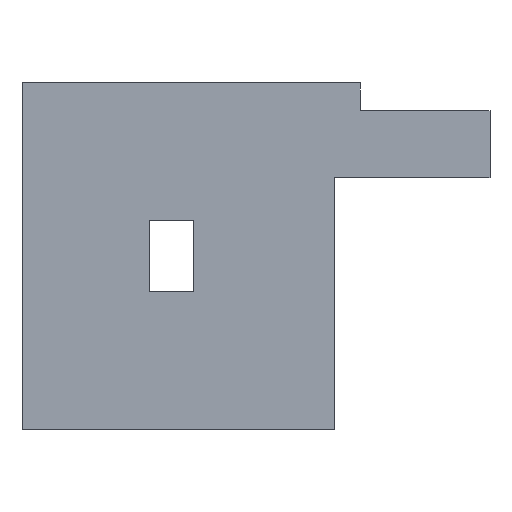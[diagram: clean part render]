
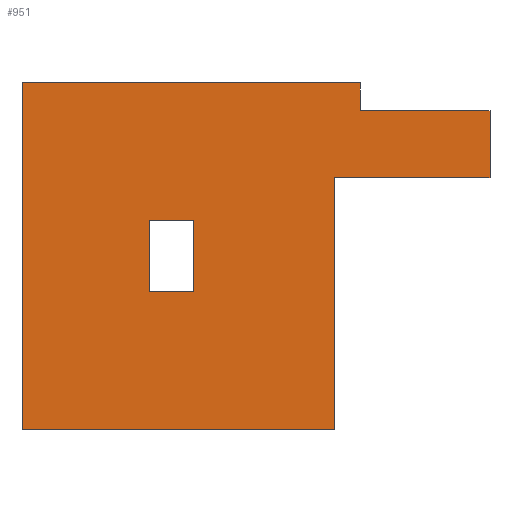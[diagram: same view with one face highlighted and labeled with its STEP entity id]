
A CAD part, front view. The second image highlights one B-rep face of the part: STEP entity #951.
In plain terms, the highlighted planar face has unit normal (0, -1, 0).
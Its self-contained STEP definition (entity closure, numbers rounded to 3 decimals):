
#34 = CARTESIAN_POINT ( 'NONE',  ( 11.5, 0., -13.325 ) ) ;
#42 = DIRECTION ( 'NONE',  ( 0., 0., 1. ) ) ;
#51 = LINE ( 'NONE', #1477, #384 ) ;
#140 = CARTESIAN_POINT ( 'NONE',  ( 37.5, 0., 13.325 ) ) ;
#145 = CARTESIAN_POINT ( 'NONE',  ( 37.5, 0., 13.325 ) ) ;
#172 = LINE ( 'NONE', #845, #909 ) ;
#174 = VECTOR ( 'NONE', #375, 1000. ) ;
#177 = VECTOR ( 'NONE', #1216, 1000. ) ;
#227 = CARTESIAN_POINT ( 'NONE',  ( 21.27, 0., -2.75 ) ) ;
#231 = EDGE_CURVE ( 'NONE', #1707, #508, #1254, .T. ) ;
#238 = CARTESIAN_POINT ( 'NONE',  ( 11.5, 0., 13.325 ) ) ;
#248 = DIRECTION ( 'NONE',  ( 1., 0., 0. ) ) ;
#259 = CARTESIAN_POINT ( 'NONE',  ( 37.5, 0., 11.175 ) ) ;
#269 = CARTESIAN_POINT ( 'NONE',  ( 11.5, 0., 13.325 ) ) ;
#307 = VECTOR ( 'NONE', #1536, 1000. ) ;
#314 = FACE_OUTER_BOUND ( 'NONE', #544, .T. ) ;
#329 = DIRECTION ( 'NONE',  ( 0., 1., 0. ) ) ;
#332 = VECTOR ( 'NONE', #248, 1000. ) ;
#338 = VERTEX_POINT ( 'NONE', #1302 ) ;
#348 = VECTOR ( 'NONE', #862, 1000. ) ;
#359 = CARTESIAN_POINT ( 'NONE',  ( 21.27, 0., 2.75 ) ) ;
#367 = EDGE_CURVE ( 'NONE', #556, #1011, #931, .T. ) ;
#369 = LINE ( 'NONE', #359, #307 ) ;
#375 = DIRECTION ( 'NONE',  ( -1., 0., 0. ) ) ;
#384 = VECTOR ( 'NONE', #689, 1000. ) ;
#402 = ORIENTED_EDGE ( 'NONE', *, *, #1494, .T. ) ;
#411 = CARTESIAN_POINT ( 'NONE',  ( 24.73, 0., 2.75 ) ) ;
#424 = CARTESIAN_POINT ( 'NONE',  ( 35.5, 0., 6.025 ) ) ;
#442 = EDGE_CURVE ( 'NONE', #508, #791, #51, .T. ) ;
#459 = CARTESIAN_POINT ( 'NONE',  ( 47.5, 0., 6.025 ) ) ;
#474 = EDGE_CURVE ( 'NONE', #1011, #1707, #172, .T. ) ;
#476 = LINE ( 'NONE', #1046, #174 ) ;
#477 = VECTOR ( 'NONE', #672, 1000. ) ;
#504 = CARTESIAN_POINT ( 'NONE',  ( 11.5, 0., -13.325 ) ) ;
#508 = VERTEX_POINT ( 'NONE', #459 ) ;
#509 = CARTESIAN_POINT ( 'NONE',  ( 24.73, 0., 2.75 ) ) ;
#526 = DIRECTION ( 'NONE',  ( 0., 0., -1. ) ) ;
#536 = VERTEX_POINT ( 'NONE', #968 ) ;
#544 = EDGE_LOOP ( 'NONE', ( #1582, #602, #1153, #1002, #1296, #1466, #1228, #1148 ) ) ;
#556 = VERTEX_POINT ( 'NONE', #34 ) ;
#602 = ORIENTED_EDGE ( 'NONE', *, *, #1692, .T. ) ;
#604 = ORIENTED_EDGE ( 'NONE', *, *, #1525, .T. ) ;
#672 = DIRECTION ( 'NONE',  ( -1., 0., 0. ) ) ;
#684 = EDGE_LOOP ( 'NONE', ( #402, #759, #604, #820 ) ) ;
#689 = DIRECTION ( 'NONE',  ( 0., 0., 1. ) ) ;
#706 = VERTEX_POINT ( 'NONE', #238 ) ;
#712 = VERTEX_POINT ( 'NONE', #509 ) ;
#716 = EDGE_CURVE ( 'NONE', #712, #536, #1080, .T. ) ;
#759 = ORIENTED_EDGE ( 'NONE', *, *, #716, .T. ) ;
#768 = LINE ( 'NONE', #227, #1415 ) ;
#791 = VERTEX_POINT ( 'NONE', #1070 ) ;
#798 = EDGE_CURVE ( 'NONE', #791, #338, #955, .T. ) ;
#801 = LINE ( 'NONE', #269, #177 ) ;
#820 = ORIENTED_EDGE ( 'NONE', *, *, #1057, .T. ) ;
#845 = CARTESIAN_POINT ( 'NONE',  ( 35.5, 0., -13.325 ) ) ;
#862 = DIRECTION ( 'NONE',  ( 1., 0., 0. ) ) ;
#867 = VERTEX_POINT ( 'NONE', #1658 ) ;
#909 = VECTOR ( 'NONE', #42, 1000. ) ;
#931 = LINE ( 'NONE', #504, #332 ) ;
#951 = ADVANCED_FACE ( 'NONE', ( #314, #1113 ), #1121, .F. ) ;
#955 = LINE ( 'NONE', #1609, #1660 ) ;
#968 = CARTESIAN_POINT ( 'NONE',  ( 24.73, 0., -2.75 ) ) ;
#996 = VECTOR ( 'NONE', #526, 1000. ) ;
#1002 = ORIENTED_EDGE ( 'NONE', *, *, #367, .T. ) ;
#1008 = VECTOR ( 'NONE', #1336, 1000. ) ;
#1011 = VERTEX_POINT ( 'NONE', #1403 ) ;
#1046 = CARTESIAN_POINT ( 'NONE',  ( 24.73, 0., -2.75 ) ) ;
#1057 = EDGE_CURVE ( 'NONE', #867, #1221, #768, .T. ) ;
#1061 = DIRECTION ( 'NONE',  ( -1., 0., 0. ) ) ;
#1070 = CARTESIAN_POINT ( 'NONE',  ( 47.5, 0., 11.175 ) ) ;
#1080 = LINE ( 'NONE', #411, #996 ) ;
#1113 = FACE_BOUND ( 'NONE', #684, .T. ) ;
#1121 = PLANE ( 'NONE',  #1709 ) ;
#1134 = VERTEX_POINT ( 'NONE', #140 ) ;
#1148 = ORIENTED_EDGE ( 'NONE', *, *, #798, .T. ) ;
#1151 = CARTESIAN_POINT ( 'NONE',  ( 35.5, 0., 6.025 ) ) ;
#1153 = ORIENTED_EDGE ( 'NONE', *, *, #1183, .T. ) ;
#1183 = EDGE_CURVE ( 'NONE', #706, #556, #801, .T. ) ;
#1216 = DIRECTION ( 'NONE',  ( 0., 0., -1. ) ) ;
#1221 = VERTEX_POINT ( 'NONE', #1452 ) ;
#1228 = ORIENTED_EDGE ( 'NONE', *, *, #442, .T. ) ;
#1251 = DIRECTION ( 'NONE',  ( 0., 0., 1. ) ) ;
#1254 = LINE ( 'NONE', #1151, #348 ) ;
#1296 = ORIENTED_EDGE ( 'NONE', *, *, #474, .T. ) ;
#1302 = CARTESIAN_POINT ( 'NONE',  ( 37.5, 0., 11.175 ) ) ;
#1329 = LINE ( 'NONE', #145, #477 ) ;
#1336 = DIRECTION ( 'NONE',  ( 0., 0., 1. ) ) ;
#1403 = CARTESIAN_POINT ( 'NONE',  ( 35.5, 0., -13.325 ) ) ;
#1415 = VECTOR ( 'NONE', #1694, 1000. ) ;
#1452 = CARTESIAN_POINT ( 'NONE',  ( 21.27, 0., 2.75 ) ) ;
#1466 = ORIENTED_EDGE ( 'NONE', *, *, #231, .T. ) ;
#1477 = CARTESIAN_POINT ( 'NONE',  ( 47.5, 0., 6.025 ) ) ;
#1494 = EDGE_CURVE ( 'NONE', #1221, #712, #369, .T. ) ;
#1525 = EDGE_CURVE ( 'NONE', #536, #867, #476, .T. ) ;
#1530 = CARTESIAN_POINT ( 'NONE',  ( 23., 0., 0. ) ) ;
#1536 = DIRECTION ( 'NONE',  ( 1., 0., 0. ) ) ;
#1543 = EDGE_CURVE ( 'NONE', #338, #1134, #1575, .T. ) ;
#1575 = LINE ( 'NONE', #259, #1008 ) ;
#1582 = ORIENTED_EDGE ( 'NONE', *, *, #1543, .T. ) ;
#1609 = CARTESIAN_POINT ( 'NONE',  ( 47.5, 0., 11.175 ) ) ;
#1658 = CARTESIAN_POINT ( 'NONE',  ( 21.27, 0., -2.75 ) ) ;
#1660 = VECTOR ( 'NONE', #1061, 1000. ) ;
#1692 = EDGE_CURVE ( 'NONE', #1134, #706, #1329, .T. ) ;
#1694 = DIRECTION ( 'NONE',  ( 0., 0., 1. ) ) ;
#1707 = VERTEX_POINT ( 'NONE', #424 ) ;
#1709 = AXIS2_PLACEMENT_3D ( 'NONE', #1530, #329, #1251 ) ;
